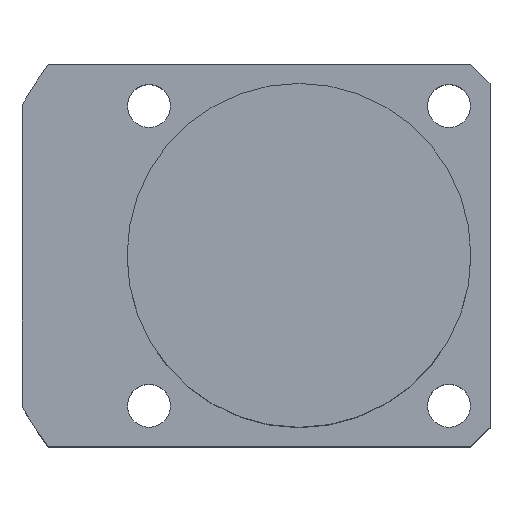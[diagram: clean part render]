
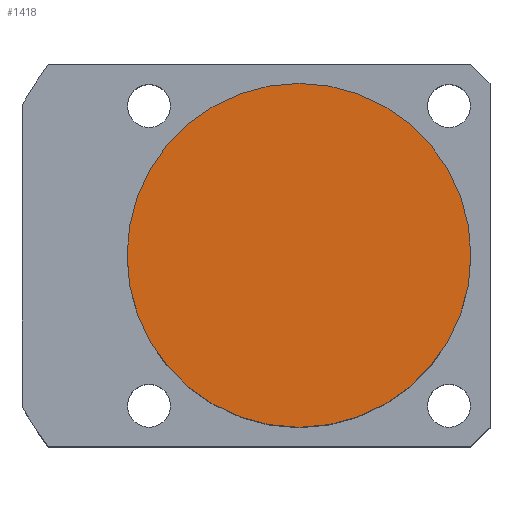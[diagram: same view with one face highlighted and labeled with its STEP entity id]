
A CAD part, top view. The second image highlights one B-rep face of the part: STEP entity #1418.
In plain terms, the highlighted planar face has unit normal (0, 0, 1).
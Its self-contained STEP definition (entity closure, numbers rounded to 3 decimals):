
#1360=CARTESIAN_POINT('',(-0.0,18.0,38.5));
#1361=VERTEX_POINT('',#1360);
#1368=CARTESIAN_POINT('',(18.0,0.0,38.5));
#1369=VERTEX_POINT('',#1368);
#1370=CARTESIAN_POINT('',(0.0,0.0,38.5));
#1371=DIRECTION('',(0.0,0.0,1.0));
#1372=DIRECTION('',(1.0,0.0,0.0));
#1373=AXIS2_PLACEMENT_3D('',#1370,#1371,#1372);
#1374=CIRCLE('',#1373,18.0);
#1375=EDGE_CURVE('no 1767',#1369,#1361,#1374,.T.);
#1377=CARTESIAN_POINT('',(-0.0,-18.0,38.5));
#1378=VERTEX_POINT('',#1377);
#1379=CARTESIAN_POINT('',(0.0,0.0,38.5));
#1380=DIRECTION('',(0.0,0.0,1.0));
#1381=DIRECTION('',(1.0,0.0,0.0));
#1382=AXIS2_PLACEMENT_3D('',#1379,#1380,#1381);
#1383=CIRCLE('',#1382,18.0);
#1384=EDGE_CURVE('no 1773',#1378,#1369,#1383,.T.);
#1402=ORIENTED_EDGE('',*,*,#1375,.T.);
#1403=CARTESIAN_POINT('',(0.0,0.0,38.5));
#1404=DIRECTION('',(0.0,0.0,1.0));
#1405=DIRECTION('',(1.0,0.0,0.0));
#1406=AXIS2_PLACEMENT_3D('',#1403,#1404,#1405);
#1407=CIRCLE('',#1406,18.0);
#1408=EDGE_CURVE('no 1790',#1361,#1378,#1407,.T.);
#1409=ORIENTED_EDGE('',*,*,#1408,.T.);
#1410=ORIENTED_EDGE('',*,*,#1384,.T.);
#1411=EDGE_LOOP('',(#1402,#1409,#1410));
#1412=FACE_OUTER_BOUND('',#1411,.T.);
#1413=CARTESIAN_POINT('',(0.0,0.0,38.5));
#1414=DIRECTION('',(0.0,0.0,1.0));
#1415=DIRECTION('',(1.0,0.0,0.0));
#1416=AXIS2_PLACEMENT_3D('',#1413,#1414,#1415);
#1417=PLANE('',#1416);
#1418=ADVANCED_FACE('no 1783',(#1412),#1417,.T.);
